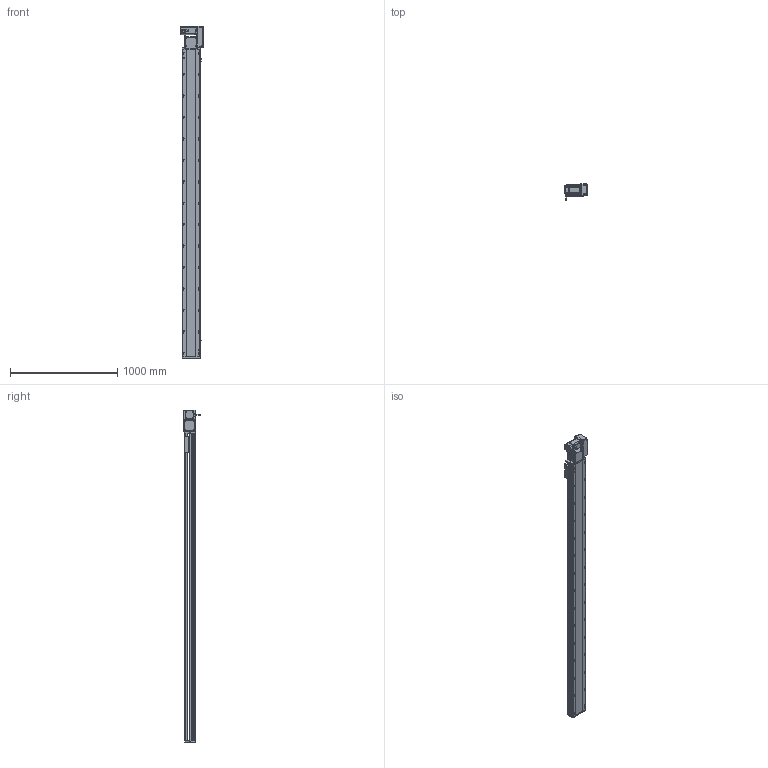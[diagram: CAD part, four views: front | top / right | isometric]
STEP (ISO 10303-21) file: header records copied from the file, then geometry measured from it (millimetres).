
FILE_DESCRIPTION (( 'STEP AP214' ), '1' );
FILE_NAME ('RTB17S-XX-2600-R-M75-C4.STEP', '2025-12-12T01:47:56', ( '' ), ( '' ), 'SwSTEP 2.0', 'SolidWorks 2018', '' );
FILE_SCHEMA (( 'AUTOMOTIVE_DESIGN' ));
Length unit declared in the file: millimetre
Products named in the file (15): EE672^RTB17S-XX-XX-R-M75-C4; RTB22S-GY-008-M75--萇儂啣^RTB17S-R-々湍釱蚾饜-750W_RTB17S-XX-XX-R-M75-C4; RTB22S-GY-005P^RTB17S-R-々湍釱蚾饜-750W_RTB17S-XX-XX-R-M75-C4; 750W萇儂^RTB17S-XX-XX-R-M75-C4; RTB17S-L-001-耜醱啣^RTB17S-XX-XX-R-M75-C4; RTB17-R-011菁釱^RTB17S-XX-XX-R-M75-C4; RTB17S-L-004-賑釱^RTB17S-賑釱_RTB17S-XX-XX-R-M75-C4; RTB17S-R-々湍釱蚾饜-750W^RTB17S-XX-XX-R-M75-C4; RTB22S-GY-017P^RTB17S-R-々湍釱蚾饜-750W_RTB17S-XX-XX-R-M75-C4; RTB17S-L-014-T20-P75--々湍釱^RTB17S-R-々湍釱蚾饜-750W_RTB17S-XX-XX-R-M75-C4; RTB17S-賑釱^RTB17S-XX-XX-R-M75-C4; RTB17S-XX-2600-R-M75-C4; RTH13-BL-012覜茼え俋离^RTB17S-賑釱_RTB17S-XX-XX-R-M75-C4; RTB22S-GY-018P^RTB17S-R-々湍釱蚾饜-750W_RTB17S-XX-XX-R-M75-C4; RTB17S-L-007奻裔^RTB17S-XX-XX-R-M75-C4
Assembly tree (17 placements, depth 3):
  RTB17S-XX-2600-R-M75-C4
    RTB17-R-011菁釱^RTB17S-XX-XX-R-M75-C4
    EE672^RTB17S-XX-XX-R-M75-C4  x3
    RTB17S-L-001-耜醱啣^RTB17S-XX-XX-R-M75-C4
    RTB17S-賑釱^RTB17S-XX-XX-R-M75-C4
      RTB17S-L-004-賑釱^RTB17S-賑釱_RTB17S-XX-XX-R-M75-C4
      RTH13-BL-012覜茼え俋离^RTB17S-賑釱_RTB17S-XX-XX-R-M75-C4
    RTB17S-L-007奻裔^RTB17S-XX-XX-R-M75-C4
    750W萇儂^RTB17S-XX-XX-R-M75-C4
    RTB17S-R-々湍釱蚾饜-750W^RTB17S-XX-XX-R-M75-C4
      RTB17S-L-014-T20-P75--々湍釱^RTB17S-R-々湍釱蚾饜-750W_RTB17S-XX-XX-R-M75-C4
      RTB22S-GY-005P^RTB17S-R-々湍釱蚾饜-750W_RTB17S-XX-XX-R-M75-C4
      RTB22S-GY-017P^RTB17S-R-々湍釱蚾饜-750W_RTB17S-XX-XX-R-M75-C4  x2
      RTB22S-GY-008-M75--萇儂啣^RTB17S-R-々湍釱蚾饜-750W_RTB17S-XX-XX-R-M75-C4
      RTB22S-GY-018P^RTB17S-R-々湍釱蚾饜-750W_RTB17S-XX-XX-R-M75-C4
Bounding box: 207.4 x 152.7 x 3099 mm (x, y, z)
Volume: 22205614.4 mm3; surface area: 4035346.5 mm2
Topology: 17 solids, 17 shells, 2217 faces, 6214 edges, 4022 vertices
Faces by surface type: plane 986, cylinder 815, bspline 294, cone 110, sphere 8, torus 4
Entity records: 64246 total; most frequent: CARTESIAN_POINT 19078, ORIENTED_EDGE 9272, DIRECTION 8582, EDGE_CURVE 4636, AXIS2_PLACEMENT_3D 3042, VERTEX_POINT 3026, LINE 2498, VECTOR 2498
